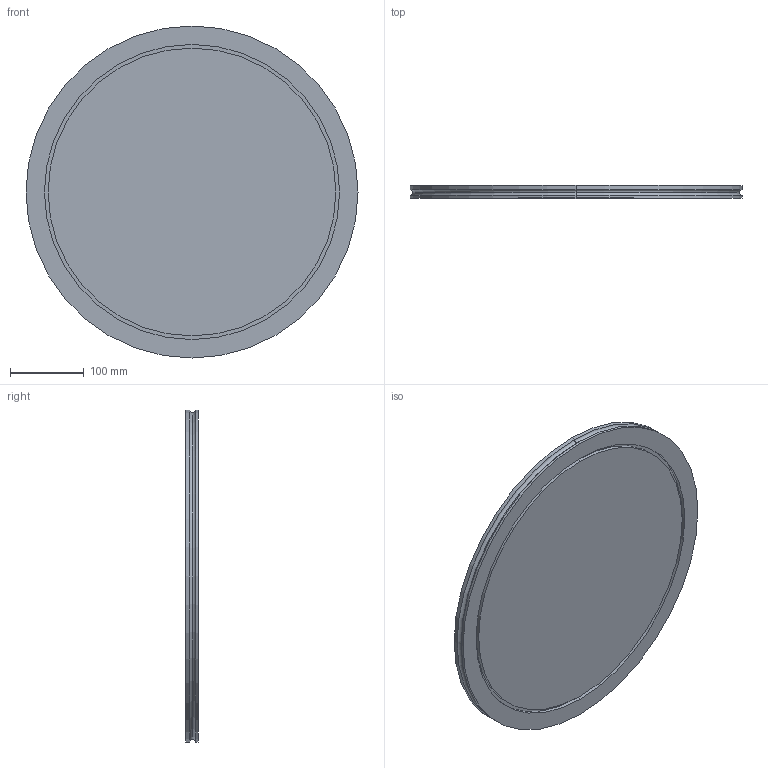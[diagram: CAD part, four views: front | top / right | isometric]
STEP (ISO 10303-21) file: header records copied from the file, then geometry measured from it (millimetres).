
FILE_DESCRIPTION (( 'STEP AP214' ), '1' );
FILE_NAME ('W4BF400.STEP', '2019-03-27T10:02:08', ( '' ), ( '' ), 'SwSTEP 2.0', 'SolidWorks 2018', '' );
FILE_SCHEMA (( 'AUTOMOTIVE_DESIGN' ));
Length unit declared in the file: millimetre
Products named in the file (1): W4BF400
Bounding box: 450 x 17 x 450 mm (x, y, z)
Volume: 2615117 mm3; surface area: 366288.9 mm2
Topology: 1 solids, 1 shells, 22 faces, 42 edges, 26 vertices
Faces by surface type: cylinder 12, plane 6, torus 4
Entity records: 602 total; most frequent: DIRECTION 118, CARTESIAN_POINT 91, ORIENTED_EDGE 84, AXIS2_PLACEMENT_3D 53, EDGE_CURVE 42, CIRCLE 30, EDGE_LOOP 26, VERTEX_POINT 26
